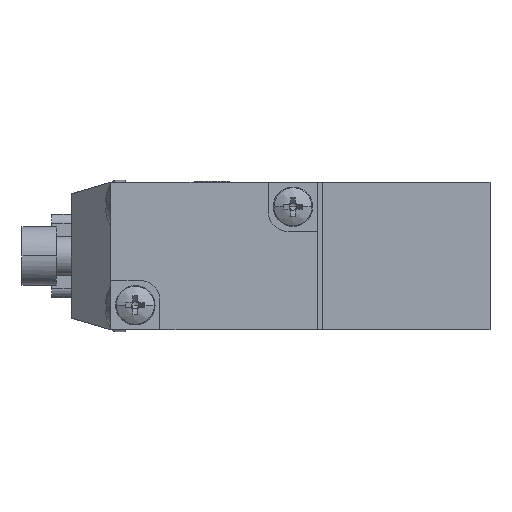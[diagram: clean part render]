
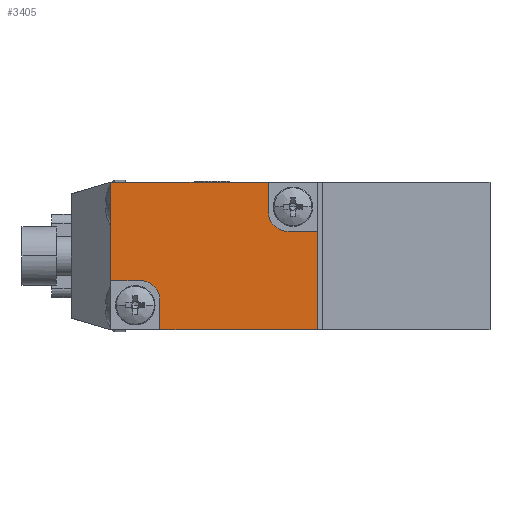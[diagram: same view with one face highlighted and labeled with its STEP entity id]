
A CAD part, left-side view. The second image highlights one B-rep face of the part: STEP entity #3405.
In plain terms, the highlighted planar face has unit normal (-1, 0, 0).
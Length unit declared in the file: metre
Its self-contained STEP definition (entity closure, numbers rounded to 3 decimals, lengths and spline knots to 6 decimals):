
#93 = LINE ( 'NONE', #7116, #6441 ) ;
#390 = DIRECTION ( 'NONE',  ( -1., 0., 0. ) ) ;
#551 = EDGE_CURVE ( 'NONE', #7926, #8683, #5445, .T. ) ;
#780 = CARTESIAN_POINT ( 'NONE',  ( -0.009, 0.018, -0.0025 ) ) ;
#789 = VECTOR ( 'NONE', #4492, 1. ) ;
#810 = VECTOR ( 'NONE', #10119, 1. ) ;
#1015 = CARTESIAN_POINT ( 'NONE',  ( -0.009, 0.003, 0.0045 ) ) ;
#1048 = DIRECTION ( 'NONE',  ( -1., 0., 0. ) ) ;
#1057 = DIRECTION ( 'NONE',  ( 0., 0., -1. ) ) ;
#1077 = LINE ( 'NONE', #10269, #810 ) ;
#1135 = CARTESIAN_POINT ( 'NONE',  ( -0.009, 0.021, -0.0025 ) ) ;
#1146 = CARTESIAN_POINT ( 'NONE',  ( -0.009, 0.021, 0.0075 ) ) ;
#1147 = FACE_OUTER_BOUND ( 'NONE', #3083, .T. ) ;
#1179 = ORIENTED_EDGE ( 'NONE', *, *, #2401, .T. ) ;
#1227 = AXIS2_PLACEMENT_3D ( 'NONE', #1015, #1048, #1057 ) ;
#1545 = VECTOR ( 'NONE', #4854, 1. ) ;
#1623 = ORIENTED_EDGE ( 'NONE', *, *, #4187, .F. ) ;
#2010 = VERTEX_POINT ( 'NONE', #6117 ) ;
#2100 = ORIENTED_EDGE ( 'NONE', *, *, #5640, .F. ) ;
#2160 = CIRCLE ( 'NONE', #1227, 0.002 ) ;
#2374 = CARTESIAN_POINT ( 'NONE',  ( -0.009, 0.0105, -0.0025 ) ) ;
#2380 = ORIENTED_EDGE ( 'NONE', *, *, #6322, .F. ) ;
#2401 = EDGE_CURVE ( 'NONE', #8683, #9340, #93, .T. ) ;
#2444 = AXIS2_PLACEMENT_3D ( 'NONE', #10715, #390, #10317 ) ;
#2808 = VERTEX_POINT ( 'NONE', #5739 ) ;
#2822 = DIRECTION ( 'NONE',  ( 0., 1., 0. ) ) ;
#2823 = VERTEX_POINT ( 'NONE', #8243 ) ;
#2922 = CARTESIAN_POINT ( 'NONE',  ( -0.009, 0.005, 0.006 ) ) ;
#3066 = ORIENTED_EDGE ( 'NONE', *, *, #7011, .F. ) ;
#3083 = EDGE_LOOP ( 'NONE', ( #5658, #2100, #10537, #10359, #1179, #1623, #3066, #2380, #10113, #9748 ) ) ;
#3405 = ADVANCED_FACE ( 'NONE', ( #1147 ), #4003, .F. ) ;
#3417 = CARTESIAN_POINT ( 'NONE',  ( -0.009, 0.003, 0.0025 ) ) ;
#3678 = EDGE_CURVE ( 'NONE', #2823, #2808, #8622, .T. ) ;
#3939 = CARTESIAN_POINT ( 'NONE',  ( -0.009, 0.0105, 0.0075 ) ) ;
#3976 = DIRECTION ( 'NONE',  ( 0., 1., 0. ) ) ;
#3981 = CARTESIAN_POINT ( 'NONE',  ( -0.009, 0., 0.0075 ) ) ;
#4003 = PLANE ( 'NONE',  #6380 ) ;
#4015 = DIRECTION ( 'NONE',  ( 1., 0., 0. ) ) ;
#4023 = DIRECTION ( 'NONE',  ( 0., 0., -1. ) ) ;
#4035 = CARTESIAN_POINT ( 'NONE',  ( -0.009, 0.0015, 0.0025 ) ) ;
#4187 = EDGE_CURVE ( 'NONE', #5637, #9340, #10327, .T. ) ;
#4218 = CIRCLE ( 'NONE', #2444, 0.002 ) ;
#4492 = DIRECTION ( 'NONE',  ( 0., 0., 1. ) ) ;
#4854 = DIRECTION ( 'NONE',  ( 0., 1., 0. ) ) ;
#5220 = LINE ( 'NONE', #2922, #789 ) ;
#5445 = LINE ( 'NONE', #3939, #9574 ) ;
#5580 = EDGE_CURVE ( 'NONE', #2823, #2010, #9783, .T. ) ;
#5637 = VERTEX_POINT ( 'NONE', #780 ) ;
#5640 = EDGE_CURVE ( 'NONE', #6610, #6680, #2160, .T. ) ;
#5658 = ORIENTED_EDGE ( 'NONE', *, *, #9589, .T. ) ;
#5739 = CARTESIAN_POINT ( 'NONE',  ( -0.009, 0.016, -0.0075 ) ) ;
#6116 = CARTESIAN_POINT ( 'NONE',  ( -0.009, 0.0105, -0.0075 ) ) ;
#6117 = CARTESIAN_POINT ( 'NONE',  ( -0.009, 0., 0.0025 ) ) ;
#6138 = DIRECTION ( 'NONE',  ( 0., 1., 0. ) ) ;
#6154 = VERTEX_POINT ( 'NONE', #7994 ) ;
#6177 = VECTOR ( 'NONE', #6138, 1. ) ;
#6322 = EDGE_CURVE ( 'NONE', #2808, #6154, #1077, .T. ) ;
#6380 = AXIS2_PLACEMENT_3D ( 'NONE', #3981, #4015, #4023 ) ;
#6441 = VECTOR ( 'NONE', #7566, 1. ) ;
#6610 = VERTEX_POINT ( 'NONE', #10180 ) ;
#6680 = VERTEX_POINT ( 'NONE', #3417 ) ;
#7011 = EDGE_CURVE ( 'NONE', #6154, #5637, #4218, .T. ) ;
#7116 = CARTESIAN_POINT ( 'NONE',  ( -0.009, 0.021, 0. ) ) ;
#7396 = EDGE_CURVE ( 'NONE', #6610, #7926, #5220, .T. ) ;
#7566 = DIRECTION ( 'NONE',  ( 0., 0., -1. ) ) ;
#7926 = VERTEX_POINT ( 'NONE', #8484 ) ;
#7994 = CARTESIAN_POINT ( 'NONE',  ( -0.009, 0.016, -0.0045 ) ) ;
#8078 = VECTOR ( 'NONE', #2822, 1. ) ;
#8243 = CARTESIAN_POINT ( 'NONE',  ( -0.009, 0., -0.0075 ) ) ;
#8484 = CARTESIAN_POINT ( 'NONE',  ( -0.009, 0.005, 0.0075 ) ) ;
#8622 = LINE ( 'NONE', #6116, #6177 ) ;
#8683 = VERTEX_POINT ( 'NONE', #1146 ) ;
#9340 = VERTEX_POINT ( 'NONE', #1135 ) ;
#9521 = VECTOR ( 'NONE', #10734, 1. ) ;
#9574 = VECTOR ( 'NONE', #3976, 1. ) ;
#9589 = EDGE_CURVE ( 'NONE', #2010, #6680, #10349, .T. ) ;
#9748 = ORIENTED_EDGE ( 'NONE', *, *, #5580, .T. ) ;
#9783 = LINE ( 'NONE', #10558, #9521 ) ;
#10113 = ORIENTED_EDGE ( 'NONE', *, *, #3678, .F. ) ;
#10119 = DIRECTION ( 'NONE',  ( 0., 0., 1. ) ) ;
#10180 = CARTESIAN_POINT ( 'NONE',  ( -0.009, 0.005, 0.0045 ) ) ;
#10269 = CARTESIAN_POINT ( 'NONE',  ( -0.009, 0.016, 0. ) ) ;
#10317 = DIRECTION ( 'NONE',  ( 0., 0., -1. ) ) ;
#10327 = LINE ( 'NONE', #2374, #8078 ) ;
#10349 = LINE ( 'NONE', #4035, #1545 ) ;
#10359 = ORIENTED_EDGE ( 'NONE', *, *, #551, .T. ) ;
#10537 = ORIENTED_EDGE ( 'NONE', *, *, #7396, .T. ) ;
#10558 = CARTESIAN_POINT ( 'NONE',  ( -0.009, 0., 0. ) ) ;
#10715 = CARTESIAN_POINT ( 'NONE',  ( -0.009, 0.018, -0.0045 ) ) ;
#10734 = DIRECTION ( 'NONE',  ( 0., 0., 1. ) ) ;
